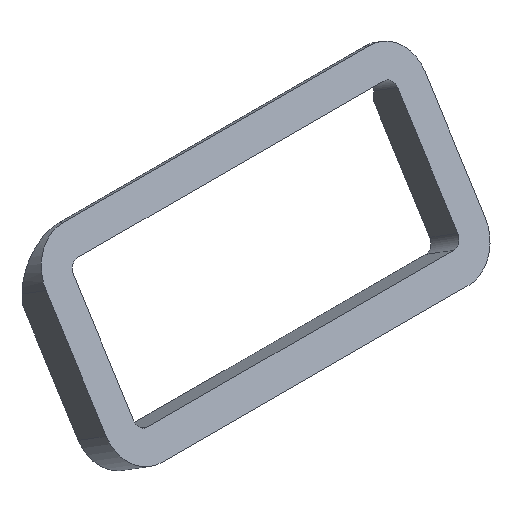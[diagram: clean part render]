
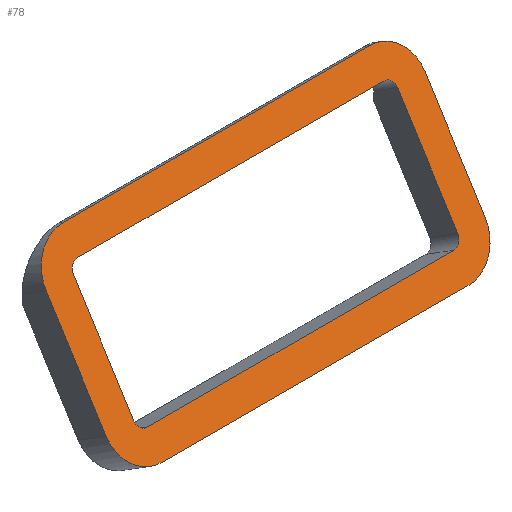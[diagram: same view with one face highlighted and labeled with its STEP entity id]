
A CAD part, isometric view. The second image highlights one B-rep face of the part: STEP entity #78.
In plain terms, the highlighted planar face has unit normal (0, -0.848, 0.53).
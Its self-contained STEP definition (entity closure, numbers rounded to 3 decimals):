
#78 = ADVANCED_FACE( '', ( #159, #160 ), #161, .F. );
#159 = FACE_BOUND( '', #247, .T. );
#160 = FACE_OUTER_BOUND( '', #248, .T. );
#161 = PLANE( '', #249 );
#247 = EDGE_LOOP( '', ( #344, #345, #346, #347, #348, #349, #350, #351 ) );
#248 = EDGE_LOOP( '', ( #352, #353, #354, #355, #356, #357, #358, #359 ) );
#249 = AXIS2_PLACEMENT_3D( '', #360, #361, #362 );
#344 = ORIENTED_EDGE( '', *, *, #539, .T. );
#345 = ORIENTED_EDGE( '', *, *, #540, .T. );
#346 = ORIENTED_EDGE( '', *, *, #527, .T. );
#347 = ORIENTED_EDGE( '', *, *, #541, .T. );
#348 = ORIENTED_EDGE( '', *, *, #542, .T. );
#349 = ORIENTED_EDGE( '', *, *, #543, .T. );
#350 = ORIENTED_EDGE( '', *, *, #544, .T. );
#351 = ORIENTED_EDGE( '', *, *, #545, .T. );
#352 = ORIENTED_EDGE( '', *, *, #546, .T. );
#353 = ORIENTED_EDGE( '', *, *, #547, .F. );
#354 = ORIENTED_EDGE( '', *, *, #537, .F. );
#355 = ORIENTED_EDGE( '', *, *, #532, .F. );
#356 = ORIENTED_EDGE( '', *, *, #523, .F. );
#357 = ORIENTED_EDGE( '', *, *, #548, .F. );
#358 = ORIENTED_EDGE( '', *, *, #549, .F. );
#359 = ORIENTED_EDGE( '', *, *, #550, .F. );
#360 = CARTESIAN_POINT( '', ( 116., -1.273, 12.446 ) );
#361 = DIRECTION( '', ( 0., 0.848, -0.53 ) );
#362 = DIRECTION( '', ( 0., 0.53, 0.848 ) );
#523 = EDGE_CURVE( '', #606, #601, #608, .T. );
#527 = EDGE_CURVE( '', #615, #613, #616, .T. );
#532 = EDGE_CURVE( '', #601, #619, #623, .T. );
#537 = EDGE_CURVE( '', #619, #625, #631, .T. );
#539 = EDGE_CURVE( '', #633, #634, #635, .T. );
#540 = EDGE_CURVE( '', #634, #615, #636, .T. );
#541 = EDGE_CURVE( '', #613, #637, #638, .T. );
#542 = EDGE_CURVE( '', #637, #639, #640, .T. );
#543 = EDGE_CURVE( '', #639, #641, #642, .T. );
#544 = EDGE_CURVE( '', #641, #643, #644, .T. );
#545 = EDGE_CURVE( '', #643, #633, #645, .T. );
#546 = EDGE_CURVE( '', #646, #647, #648, .T. );
#547 = EDGE_CURVE( '', #625, #647, #649, .T. );
#548 = EDGE_CURVE( '', #650, #606, #651, .T. );
#549 = EDGE_CURVE( '', #652, #650, #653, .T. );
#550 = EDGE_CURVE( '', #646, #652, #654, .T. );
#601 = VERTEX_POINT( '', #722 );
#606 = VERTEX_POINT( '', #729 );
#608 = LINE( '', #732, #733 );
#613 = VERTEX_POINT( '', #739 );
#615 = VERTEX_POINT( '', #742 );
#616 = LINE( '', #743, #744 );
#619 = VERTEX_POINT( '', #748 );
#623 = CIRCLE( '', #753, 10. );
#625 = VERTEX_POINT( '', #755 );
#631 = LINE( '', #764, #765 );
#633 = VERTEX_POINT( '', #767 );
#634 = VERTEX_POINT( '', #768 );
#635 = LINE( '', #769, #770 );
#636 = CIRCLE( '', #771, 2.5 );
#637 = VERTEX_POINT( '', #772 );
#638 = CIRCLE( '', #773, 2.5 );
#639 = VERTEX_POINT( '', #774 );
#640 = LINE( '', #775, #776 );
#641 = VERTEX_POINT( '', #777 );
#642 = CIRCLE( '', #778, 2.5 );
#643 = VERTEX_POINT( '', #779 );
#644 = LINE( '', #780, #781 );
#645 = CIRCLE( '', #782, 2.5 );
#646 = VERTEX_POINT( '', #783 );
#647 = VERTEX_POINT( '', #784 );
#648 = LINE( '', #785, #786 );
#649 = CIRCLE( '', #787, 10. );
#650 = VERTEX_POINT( '', #788 );
#651 = CIRCLE( '', #789, 10. );
#652 = VERTEX_POINT( '', #790 );
#653 = LINE( '', #791, #792 );
#654 = CIRCLE( '', #793, 10. );
#722 = CARTESIAN_POINT( '', ( 6.25, -28.299, -30.805 ) );
#729 = CARTESIAN_POINT( '', ( 89.75, -28.299, -30.805 ) );
#732 = CARTESIAN_POINT( '', ( 6.25, -28.299, -30.805 ) );
#733 = VECTOR( '', #883, 1000. );
#739 = CARTESIAN_POINT( '', ( 89.75, -5.248, 6.086 ) );
#742 = CARTESIAN_POINT( '', ( 6.25, -5.248, 6.086 ) );
#743 = CARTESIAN_POINT( '', ( 89.75, -5.248, 6.086 ) );
#744 = VECTOR( '', #886, 1000. );
#748 = CARTESIAN_POINT( '', ( -3.75, -23., -22.324 ) );
#753 = AXIS2_PLACEMENT_3D( '', #892, #893, #894 );
#755 = CARTESIAN_POINT( '', ( -3.75, -6.573, 3.965 ) );
#764 = CARTESIAN_POINT( '', ( -3.75, -6.573, 3.965 ) );
#765 = VECTOR( '', #898, 1000. );
#767 = CARTESIAN_POINT( '', ( 3.75, -23., -22.324 ) );
#768 = CARTESIAN_POINT( '', ( 3.75, -6.573, 3.965 ) );
#769 = CARTESIAN_POINT( '', ( 3.75, -6.573, 3.965 ) );
#770 = VECTOR( '', #899, 1000. );
#771 = AXIS2_PLACEMENT_3D( '', #900, #901, #902 );
#772 = CARTESIAN_POINT( '', ( 92.25, -6.573, 3.965 ) );
#773 = AXIS2_PLACEMENT_3D( '', #903, #904, #905 );
#774 = CARTESIAN_POINT( '', ( 92.25, -23., -22.324 ) );
#775 = CARTESIAN_POINT( '', ( 92.25, -23., -22.324 ) );
#776 = VECTOR( '', #906, 1000. );
#777 = CARTESIAN_POINT( '', ( 89.75, -24.325, -24.444 ) );
#778 = AXIS2_PLACEMENT_3D( '', #907, #908, #909 );
#779 = CARTESIAN_POINT( '', ( 6.25, -24.325, -24.444 ) );
#780 = CARTESIAN_POINT( '', ( 6.25, -24.325, -24.444 ) );
#781 = VECTOR( '', #910, 1000. );
#782 = AXIS2_PLACEMENT_3D( '', #911, #912, #913 );
#783 = CARTESIAN_POINT( '', ( 89.799, -1.273, 12.446 ) );
#784 = CARTESIAN_POINT( '', ( 6.201, -1.273, 12.446 ) );
#785 = CARTESIAN_POINT( '', ( 116., -1.273, 12.446 ) );
#786 = VECTOR( '', #914, 1000. );
#787 = AXIS2_PLACEMENT_3D( '', #915, #916, #917 );
#788 = CARTESIAN_POINT( '', ( 99.75, -23., -22.324 ) );
#789 = AXIS2_PLACEMENT_3D( '', #918, #919, #920 );
#790 = CARTESIAN_POINT( '', ( 99.75, -6.573, 3.965 ) );
#791 = CARTESIAN_POINT( '', ( 99.75, -23., -22.324 ) );
#792 = VECTOR( '', #921, 1000. );
#793 = AXIS2_PLACEMENT_3D( '', #922, #923, #924 );
#883 = DIRECTION( '', ( -1., 0., 0. ) );
#886 = DIRECTION( '', ( 1., 0., 0. ) );
#892 = CARTESIAN_POINT( '', ( 6.25, -23., -22.324 ) );
#893 = DIRECTION( '', ( 0., 0.848, -0.53 ) );
#894 = DIRECTION( '', ( 0., 0.53, 0.848 ) );
#898 = DIRECTION( '', ( 0., 0.53, 0.848 ) );
#899 = DIRECTION( '', ( 0., 0.53, 0.848 ) );
#900 = CARTESIAN_POINT( '', ( 6.25, -6.573, 3.965 ) );
#901 = DIRECTION( '', ( 0., 0.848, -0.53 ) );
#902 = DIRECTION( '', ( 0., 0.53, 0.848 ) );
#903 = CARTESIAN_POINT( '', ( 89.75, -6.573, 3.965 ) );
#904 = DIRECTION( '', ( 0., 0.848, -0.53 ) );
#905 = DIRECTION( '', ( 0., 0.53, 0.848 ) );
#906 = DIRECTION( '', ( 0., -0.53, -0.848 ) );
#907 = CARTESIAN_POINT( '', ( 89.75, -23., -22.324 ) );
#908 = DIRECTION( '', ( 0., 0.848, -0.53 ) );
#909 = DIRECTION( '', ( 0., 0.53, 0.848 ) );
#910 = DIRECTION( '', ( -1., 0., 0. ) );
#911 = CARTESIAN_POINT( '', ( 6.25, -23., -22.324 ) );
#912 = DIRECTION( '', ( 0., 0.848, -0.53 ) );
#913 = DIRECTION( '', ( 0., 0.53, 0.848 ) );
#914 = DIRECTION( '', ( -1., 0., 0. ) );
#915 = CARTESIAN_POINT( '', ( 6.25, -6.573, 3.965 ) );
#916 = DIRECTION( '', ( 0., 0.848, -0.53 ) );
#917 = DIRECTION( '', ( 0., 0.53, 0.848 ) );
#918 = CARTESIAN_POINT( '', ( 89.75, -23., -22.324 ) );
#919 = DIRECTION( '', ( 0., 0.848, -0.53 ) );
#920 = DIRECTION( '', ( 0., 0.53, 0.848 ) );
#921 = DIRECTION( '', ( 0., -0.53, -0.848 ) );
#922 = CARTESIAN_POINT( '', ( 89.75, -6.573, 3.965 ) );
#923 = DIRECTION( '', ( 0., 0.848, -0.53 ) );
#924 = DIRECTION( '', ( 0., 0.53, 0.848 ) );
